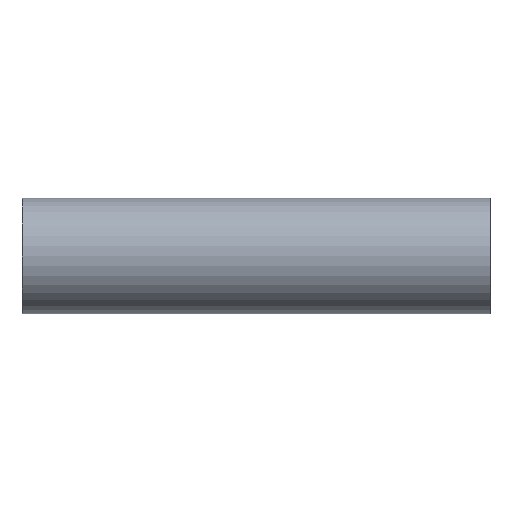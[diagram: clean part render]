
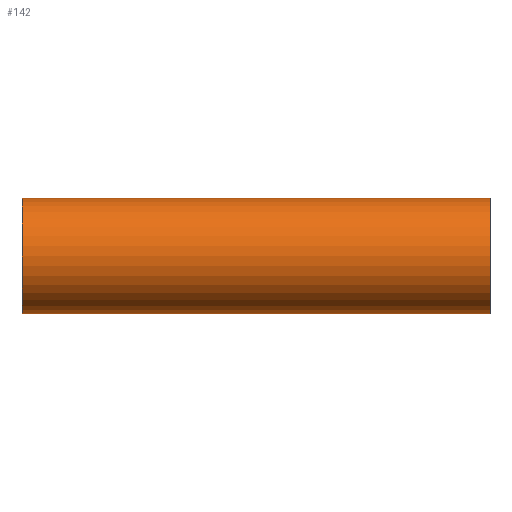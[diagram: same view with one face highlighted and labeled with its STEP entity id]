
A CAD part, front view. The second image highlights one B-rep face of the part: STEP entity #142.
In plain terms, the highlighted cylindrical face has radius 31.75 mm (diameter 63.5 mm), a partial arc.
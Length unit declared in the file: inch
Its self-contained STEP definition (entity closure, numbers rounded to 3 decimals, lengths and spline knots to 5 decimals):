
#8 = CARTESIAN_POINT ( 'NONE',  ( 0., 0., -1.25 ) ) ;
#18 = EDGE_CURVE ( 'NONE', #167, #395, #479, .T. ) ;
#33 = DIRECTION ( 'NONE',  ( 1., 0., 0. ) ) ;
#34 = EDGE_CURVE ( 'NONE', #395, #156, #457, .T. ) ;
#61 = DIRECTION ( 'NONE',  ( 1., 0., 0. ) ) ;
#68 = AXIS2_PLACEMENT_3D ( 'NONE', #97, #378, #134 ) ;
#80 = CARTESIAN_POINT ( 'NONE',  ( -1.625, 0., -1.25 ) ) ;
#82 = DIRECTION ( 'NONE',  ( 1., 0., 0. ) ) ;
#88 = CARTESIAN_POINT ( 'NONE',  ( 8.5, 0., 0. ) ) ;
#90 = CARTESIAN_POINT ( 'NONE',  ( -1.625, 0., 0. ) ) ;
#97 = CARTESIAN_POINT ( 'NONE',  ( -1.625, 0., 0. ) ) ;
#107 = CARTESIAN_POINT ( 'NONE',  ( -1.625, 0., -1.25 ) ) ;
#119 = ORIENTED_EDGE ( 'NONE', *, *, #361, .F. ) ;
#126 = DIRECTION ( 'NONE',  ( 0., 0., -1. ) ) ;
#132 = VERTEX_POINT ( 'NONE', #442 ) ;
#134 = DIRECTION ( 'NONE',  ( 0., 0., -1. ) ) ;
#142 = ADVANCED_FACE ( 'NONE', ( #398 ), #371, .T. ) ;
#156 = VERTEX_POINT ( 'NONE', #478 ) ;
#163 = ORIENTED_EDGE ( 'NONE', *, *, #451, .F. ) ;
#167 = VERTEX_POINT ( 'NONE', #461 ) ;
#173 = ORIENTED_EDGE ( 'NONE', *, *, #34, .T. ) ;
#174 = AXIS2_PLACEMENT_3D ( 'NONE', #88, #321, #279 ) ;
#210 = EDGE_CURVE ( 'NONE', #423, #156, #367, .T. ) ;
#235 = AXIS2_PLACEMENT_3D ( 'NONE', #90, #61, #126 ) ;
#242 = ORIENTED_EDGE ( 'NONE', *, *, #210, .F. ) ;
#255 = CARTESIAN_POINT ( 'NONE',  ( 8.5, 0., 1.25 ) ) ;
#262 = EDGE_LOOP ( 'NONE', ( #119, #315, #306, #173, #242, #163 ) ) ;
#279 = DIRECTION ( 'NONE',  ( 0., 0., -1. ) ) ;
#299 = CARTESIAN_POINT ( 'NONE',  ( -1.625, 0., 1.25 ) ) ;
#303 = CARTESIAN_POINT ( 'NONE',  ( -1.625, 0., 1.25 ) ) ;
#306 = ORIENTED_EDGE ( 'NONE', *, *, #18, .T. ) ;
#315 = ORIENTED_EDGE ( 'NONE', *, *, #402, .T. ) ;
#321 = DIRECTION ( 'NONE',  ( 1., 0., 0. ) ) ;
#332 = VECTOR ( 'NONE', #454, 39.37008 ) ;
#335 = CIRCLE ( 'NONE', #68, 1.25 ) ;
#336 = LINE ( 'NONE', #303, #332 ) ;
#342 = VECTOR ( 'NONE', #33, 39.37008 ) ;
#346 = LINE ( 'NONE', #299, #342 ) ;
#361 = EDGE_CURVE ( 'NONE', #392, #132, #346, .T. ) ;
#367 = CIRCLE ( 'NONE', #174, 1.25 ) ;
#371 = CYLINDRICAL_SURFACE ( 'NONE', #235, 1.25 ) ;
#377 = CARTESIAN_POINT ( 'NONE',  ( -1.625, 0., 1.25 ) ) ;
#378 = DIRECTION ( 'NONE',  ( 1., 0., 0. ) ) ;
#392 = VERTEX_POINT ( 'NONE', #377 ) ;
#395 = VERTEX_POINT ( 'NONE', #8 ) ;
#398 = FACE_OUTER_BOUND ( 'NONE', #262, .T. ) ;
#402 = EDGE_CURVE ( 'NONE', #392, #167, #335, .T. ) ;
#418 = VECTOR ( 'NONE', #433, 39.37008 ) ;
#423 = VERTEX_POINT ( 'NONE', #255 ) ;
#433 = DIRECTION ( 'NONE',  ( 1., 0., 0. ) ) ;
#442 = CARTESIAN_POINT ( 'NONE',  ( 0., 0., 1.25 ) ) ;
#451 = EDGE_CURVE ( 'NONE', #132, #423, #336, .T. ) ;
#454 = DIRECTION ( 'NONE',  ( 1., 0., 0. ) ) ;
#457 = LINE ( 'NONE', #107, #472 ) ;
#461 = CARTESIAN_POINT ( 'NONE',  ( -1.625, 0., -1.25 ) ) ;
#472 = VECTOR ( 'NONE', #82, 39.37008 ) ;
#478 = CARTESIAN_POINT ( 'NONE',  ( 8.5, 0., -1.25 ) ) ;
#479 = LINE ( 'NONE', #80, #418 ) ;
